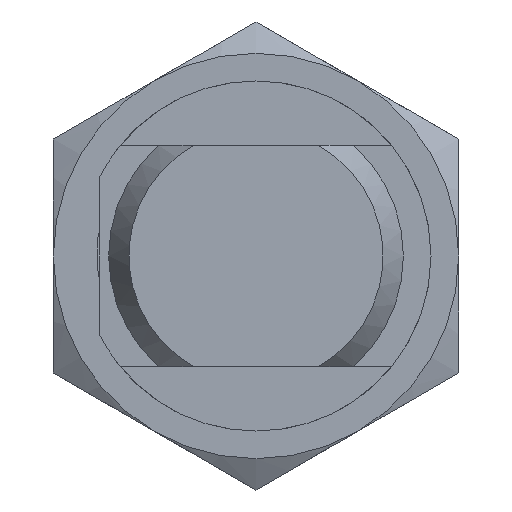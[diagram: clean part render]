
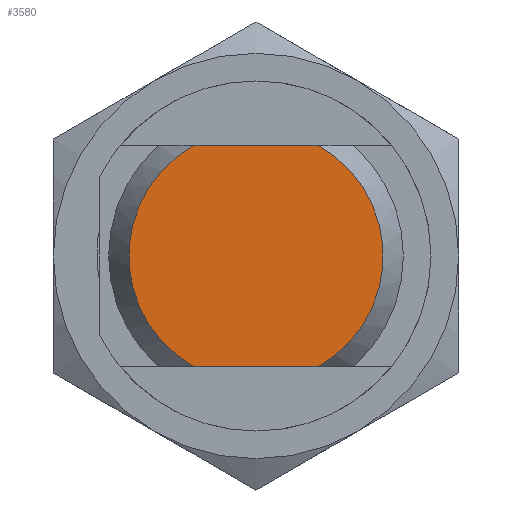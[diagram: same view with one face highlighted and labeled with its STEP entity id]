
A CAD part, left-side view. The second image highlights one B-rep face of the part: STEP entity #3580.
In plain terms, the highlighted planar face has unit normal (-1, 0, 0).
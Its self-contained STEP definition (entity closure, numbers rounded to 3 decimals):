
#490 = AXIS2_PLACEMENT_3D ( 'NONE', #861, #1306, #651 ) ;
#547 = AXIS2_PLACEMENT_3D ( 'NONE', #1666, #1641, #1167 ) ;
#628 = AXIS2_PLACEMENT_3D ( 'NONE', #1390, #1511, #1106 ) ;
#651 = DIRECTION ( 'NONE',  ( 0., 0., 1. ) ) ;
#653 = DIRECTION ( 'NONE',  ( 0., -1., 0. ) ) ;
#861 = CARTESIAN_POINT ( 'NONE',  ( 0., 0., 0. ) ) ;
#867 = PLANE ( 'NONE',  #490 ) ;
#1106 = DIRECTION ( 'NONE',  ( 0., 0., 1. ) ) ;
#1167 = DIRECTION ( 'NONE',  ( 0., 0., 1. ) ) ;
#1252 = CARTESIAN_POINT ( 'NONE',  ( 0., 8.5, 6. ) ) ;
#1306 = DIRECTION ( 'NONE',  ( -1., 0., 0. ) ) ;
#1390 = CARTESIAN_POINT ( 'NONE',  ( 0., 0., 0. ) ) ;
#1397 = DIRECTION ( 'NONE',  ( 0., 1., 0. ) ) ;
#1511 = DIRECTION ( 'NONE',  ( -1., 0., 0. ) ) ;
#1641 = DIRECTION ( 'NONE',  ( -1., 0., 0. ) ) ;
#1666 = CARTESIAN_POINT ( 'NONE',  ( 0., 0., 0. ) ) ;
#1686 = CARTESIAN_POINT ( 'NONE',  ( 0., 8.5, -6. ) ) ;
#2030 = EDGE_CURVE ( 'NONE', #4240, #4192, #2858, .T. ) ;
#2044 = EDGE_CURVE ( 'NONE', #4176, #4192, #2857, .T. ) ;
#2102 = EDGE_CURVE ( 'NONE', #4176, #4525, #2831, .T. ) ;
#2128 = EDGE_CURVE ( 'NONE', #4240, #4525, #2770, .T. ) ;
#2271 = FACE_OUTER_BOUND ( 'NONE', #4018, .T. ) ;
#2425 = CARTESIAN_POINT ( 'NONE',  ( 0., -3.407, 6. ) ) ;
#2585 = CARTESIAN_POINT ( 'NONE',  ( 0., 3.407, 6. ) ) ;
#2624 = CARTESIAN_POINT ( 'NONE',  ( 0., 3.407, -6. ) ) ;
#2642 = CARTESIAN_POINT ( 'NONE',  ( 0., -3.407, -6. ) ) ;
#2770 = LINE ( 'NONE', #1252, #2773 ) ;
#2773 = VECTOR ( 'NONE', #653, 1000. ) ;
#2831 = CIRCLE ( 'NONE', #628, 6.9 ) ;
#2847 = VECTOR ( 'NONE', #1397, 1000. ) ;
#2857 = LINE ( 'NONE', #1686, #2847 ) ;
#2858 = CIRCLE ( 'NONE', #547, 6.9 ) ;
#3580 = ADVANCED_FACE ( 'NONE', ( #2271 ), #867, .T. ) ;
#4018 = EDGE_LOOP ( 'NONE', ( #4104, #4260, #4067, #4087 ) ) ;
#4067 = ORIENTED_EDGE ( 'NONE', *, *, #2044, .F. ) ;
#4087 = ORIENTED_EDGE ( 'NONE', *, *, #2102, .T. ) ;
#4104 = ORIENTED_EDGE ( 'NONE', *, *, #2128, .F. ) ;
#4176 = VERTEX_POINT ( 'NONE', #2642 ) ;
#4192 = VERTEX_POINT ( 'NONE', #2624 ) ;
#4240 = VERTEX_POINT ( 'NONE', #2585 ) ;
#4260 = ORIENTED_EDGE ( 'NONE', *, *, #2030, .T. ) ;
#4525 = VERTEX_POINT ( 'NONE', #2425 ) ;
